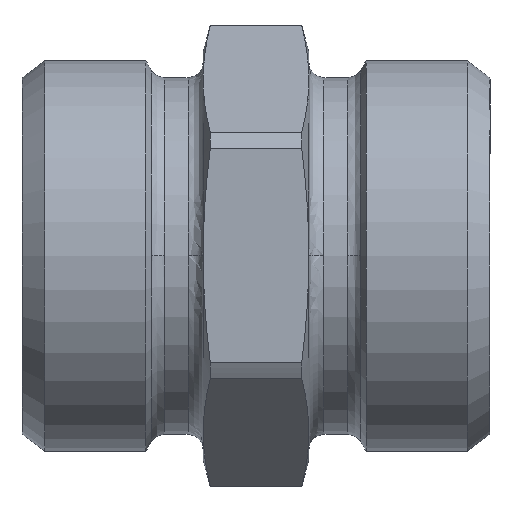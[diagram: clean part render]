
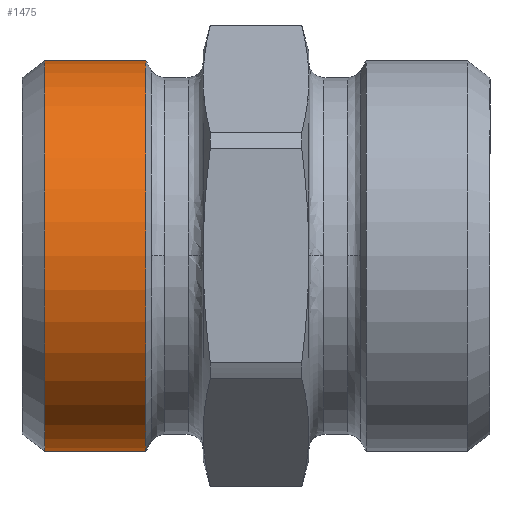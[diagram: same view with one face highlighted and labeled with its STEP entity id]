
A CAD part, top view. The second image highlights one B-rep face of the part: STEP entity #1475.
In plain terms, the highlighted cylindrical face has radius 12.925 mm (diameter 25.85 mm), a partial arc.
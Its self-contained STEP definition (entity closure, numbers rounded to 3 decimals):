
#859=CARTESIAN_POINT('',(0.,-12.925,14.007));
#860=VERTEX_POINT('',#859);
#861=CARTESIAN_POINT('',(0.,-12.925,7.3));
#862=VERTEX_POINT('',#861);
#863=CARTESIAN_POINT('',(0.,-12.925,14.007));
#864=DIRECTION('',(0.0,0.0,-1.0));
#865=VECTOR('',#864,6.708);
#866=LINE('',#863,#865);
#867=EDGE_CURVE('',#860,#862,#866,.T.);
#869=CARTESIAN_POINT('',(0.,12.925,14.007));
#870=VERTEX_POINT('',#869);
#878=CARTESIAN_POINT('',(0.,12.925,7.3));
#879=VERTEX_POINT('',#878);
#880=CARTESIAN_POINT('',(0.,12.925,7.3));
#881=DIRECTION('',(0.0,0.0,1.0));
#882=VECTOR('',#881,6.708);
#883=LINE('',#880,#882);
#884=EDGE_CURVE('',#879,#870,#883,.T.);
#1351=CARTESIAN_POINT('',(0.,0.,7.3));
#1352=DIRECTION('',(0.0,0.0,-1.0));
#1353=DIRECTION('',(0.0,-1.0,0.0));
#1354=AXIS2_PLACEMENT_3D('',#1351,#1352,#1353);
#1355=CIRCLE('',#1354,12.925);
#1356=EDGE_CURVE('',#879,#862,#1355,.T.);
#1452=CARTESIAN_POINT('',(0.,0.,14.007));
#1453=DIRECTION('',(0.0,0.0,-1.0));
#1454=DIRECTION('',(0.0,-1.0,0.0));
#1455=AXIS2_PLACEMENT_3D('',#1452,#1453,#1454);
#1456=CIRCLE('',#1455,12.925);
#1457=EDGE_CURVE('',#870,#860,#1456,.T.);
#1464=CARTESIAN_POINT('',(0.,0.,10.653));
#1465=DIRECTION('',(0.,0.,-1.0));
#1466=DIRECTION('',(0.0,-1.0,0.0));
#1467=AXIS2_PLACEMENT_3D('',#1464,#1465,#1466);
#1468=CYLINDRICAL_SURFACE('',#1467,12.925);
#1469=ORIENTED_EDGE('',*,*,#867,.T.);
#1470=ORIENTED_EDGE('',*,*,#1356,.F.);
#1471=ORIENTED_EDGE('',*,*,#884,.T.);
#1472=ORIENTED_EDGE('',*,*,#1457,.T.);
#1473=EDGE_LOOP('',(#1469,#1470,#1471,#1472));
#1474=FACE_OUTER_BOUND('',#1473,.T.);
#1475=ADVANCED_FACE('',(#1474),#1468,.T.);
